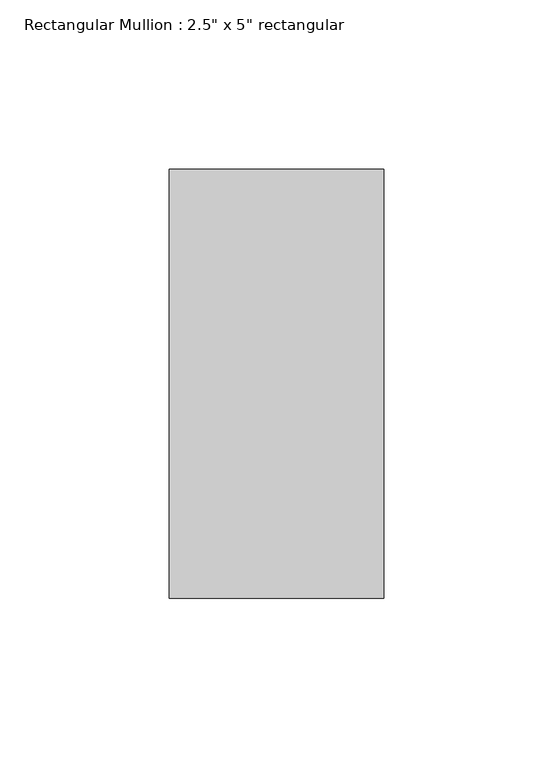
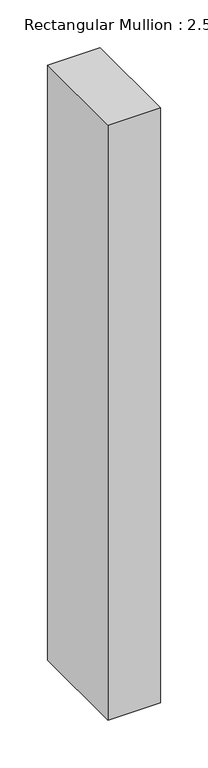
"""IFC4 building model written with IfcOpenShell, lengths in millimetres: member geometry."""

from ifc_helpers import new_model, si_unit, frame, origin, place, context, project, spatial, polyline, outline, extrude, source, transform, mapped, element, save


def member_61742b2b(model_context):
    return source(origin(), model_context, "Body", "SweptSolid", [
        extrude(outline(polyline([(31.75, 63.5), (31.75, -63.5), (-31.75, -63.5), (-31.75, 63.5), (31.75, 63.5)])), frame((0.0, 0.0, -762.0), z_axis=(0.0, 0.0, 1.0), x_axis=(1.0, 0.0, 0.0)), (0.0, 0.0, 1.0), 762.0),
    ])


if __name__ == "__main__":
    model = new_model("IFC4")
    model_context = context("Model", 3, world=origin())
    ifc_project = project(units=[si_unit("LENGTHUNIT", "METRE", prefix="MILLI")], contexts=[model_context])
    site = spatial("IfcSite", under=ifc_project)
    building = spatial("IfcBuilding", under=site)
    placement = place(None, origin())
    member_shape = member_61742b2b(model_context)
    element("IfcMember", 1, ObjectType="Rectangular Mullion : 2.5\" x 5\" rectangular", at=placement, inside=building, context=model_context, shape_type="MappedRepresentation", body=[
        mapped(member_shape, transform((0.0, 0.0, 0.0), x_axis=(1.0, 0.0, 0.0), y_axis=(0.0, 1.0, 0.0), z_axis=(0.0, 0.0, 1.0))),
    ])
    save(model, "model.ifc")
